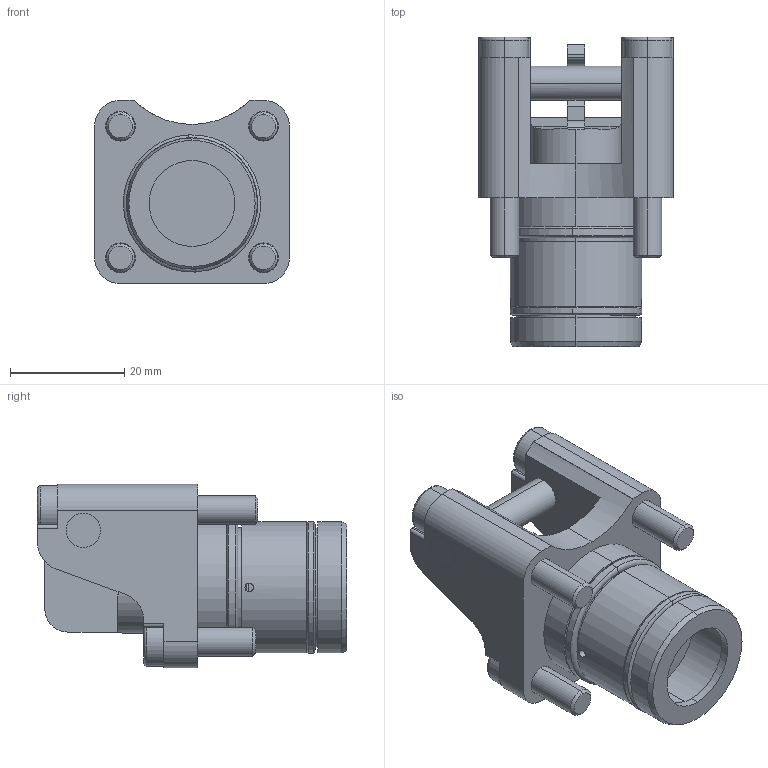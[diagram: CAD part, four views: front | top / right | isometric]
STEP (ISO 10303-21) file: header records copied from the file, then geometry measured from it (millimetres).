
FILE_DESCRIPTION (( 'STEP AP203' ), '1' );
FILE_NAME ('101592_Drehhebelspanner.STEP', '2013-04-18T10:05:07', ( '' ), ( '' ), 'SwSTEP 2.0', 'SolidWorks 2010', '' );
FILE_SCHEMA (( 'CONFIG_CONTROL_DESIGN' ));
Length unit declared in the file: millimetre
Products named in the file (8): 101592_Drehhebelspanner; 101592_Gehäuse_Default; 101592_Kolben; 101592_Lagerbolzen_Default; 101592_O-Ring_1_Default; 101592_Zylinderschraube_1_Default; 101592_Zylinderschraube_2_DIN 6912 - M5 x 12 --- 12N; 101592_O-Ring_2_Default
Assembly tree (9 placements, depth 2):
  101592_Drehhebelspanner
    101592_O-Ring_1_Default
    101592_Zylinderschraube_2_DIN 6912 - M5 x 12 --- 12N  x2
    101592_Lagerbolzen_Default
    101592_Gehäuse_Default
    101592_Kolben
    101592_Zylinderschraube_1_Default  x2
    101592_O-Ring_2_Default
Bounding box: 34 x 54 x 32 mm (x, y, z)
Volume: 24596.1 mm3; surface area: 15800.8 mm2
Topology: 9 solids, 9 shells, 289 faces, 707 edges, 432 vertices
Faces by surface type: cylinder 114, plane 111, cone 38, torus 26
Entity records: 8007 total; most frequent: CARTESIAN_POINT 1624, DIRECTION 1233, ORIENTED_EDGE 1110, EDGE_CURVE 555, AXIS2_PLACEMENT_3D 481, VERTEX_POINT 348, LINE 271, VECTOR 271
